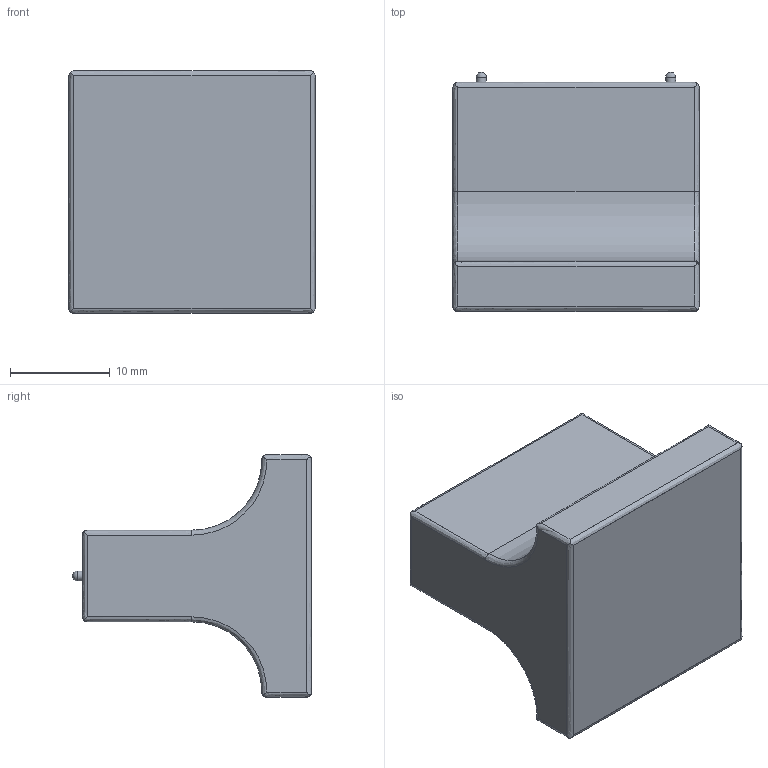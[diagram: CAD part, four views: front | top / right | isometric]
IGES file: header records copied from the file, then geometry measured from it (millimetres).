
Start section: Data from Parasolid IGES Translator 15.0.47, Copyright(c) 2006 Siemens P LM Software. All Rights Reserved.
Global section: file name: 1170173.igs; native system:  By UGS Corp.; preprocessor: XPlus GENERIC/IGES 3.0; author: Noname; organization: Noname; date: 20140122.100754; units: millimetre
Bounding box: 24.71 x 24.01 x 24.31 mm (x, y, z)
Surface area: 2868.4 mm2 (no closed solid volume)
Topology: 0 solids, 0 shells, 40 faces, 214 edges, 202 vertices
Faces by surface type: revolution 29, extrusion 11
